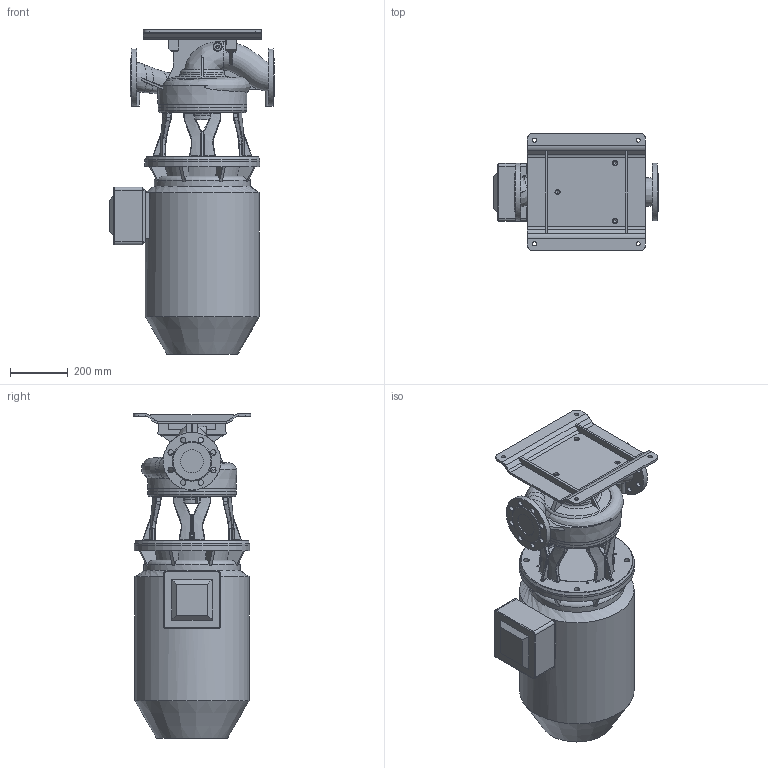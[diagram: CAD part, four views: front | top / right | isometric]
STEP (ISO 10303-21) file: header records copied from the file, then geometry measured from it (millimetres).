
FILE_DESCRIPTION (( 'STEP AP203' ), '1' );
FILE_NAME ('KI80-220_2_37kW.STEP', '2024-03-07T08:45:27', ( '' ), ( '' ), 'SwSTEP 2.0', 'SolidWorks 2023', '' );
FILE_SCHEMA (( 'CONFIG_CONTROL_DESIGN' ));
Length unit declared in the file: millimetre
Products named in the file (10): 230084; 230574; 220533; 220531; 440130_solid; 230083; 230085; KI80-220_2_37kW; 230572; 220610
Assembly tree (10 placements, depth 3):
  KI80-220_2_37kW
    230574
      230572
    220533
      220531
    230085
      230083
      230084  x2
    220610
    440130_solid
Bounding box: 572 x 408.67 x 1126.21 mm (x, y, z)
Volume: 97150828.2 mm3; surface area: 2820814.6 mm2
Topology: 7 solids, 7 shells, 837 faces, 2163 edges, 1320 vertices
Faces by surface type: bspline 271, plane 248, cylinder 193, cone 64, torus 59, sphere 2
Full cylindrical faces by diameter (mm): 6 x2, 6.8 x8, 10 x4, 10.2 x8, 11.445 x1, 11.8 x3, 14 x19, 14.5 x4, 18 x3, 18.5 x4, 19 x20, 80 x2, 225 x1, 243 x1, 255 x2, 256 x1, 300 x1, 308 x2, 335 x1, 398 x1, 400 x2
Entity records: 69910 total; most frequent: CARTESIAN_POINT 51729, ORIENTED_EDGE 3830, DIRECTION 2953, EDGE_CURVE 1915, VERTEX_POINT 1243, AXIS2_PLACEMENT_3D 1224, EDGE_LOOP 1104, FACE_OUTER_BOUND 926
